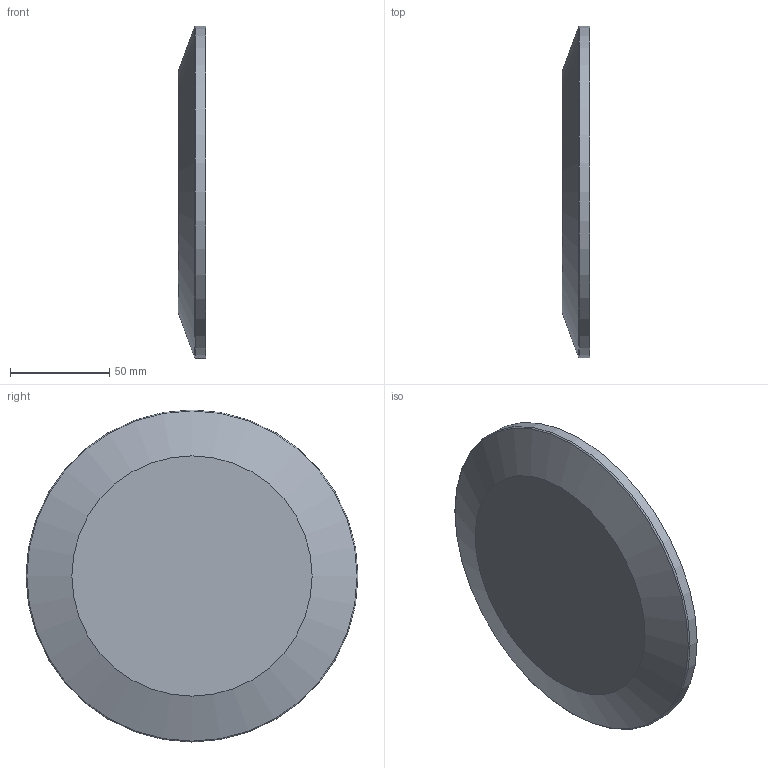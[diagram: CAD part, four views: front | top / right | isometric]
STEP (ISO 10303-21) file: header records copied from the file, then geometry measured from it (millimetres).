
FILE_DESCRIPTION(/* description */ (''),/* implementation_level */ '2;1');
FILE_NAME(/* name */ '12766-Ferrule size-166.stp',/* time_stamp */ '2024-12-16T08:27:25+01:00',/* author */ ('roger.thijssen'),/* organization */ (''),/* preprocessor_version */ 'ST-DEVELOPER v20',/* originating_system */ 'Autodesk Inventor 2025',/* authorisation */ '');
FILE_SCHEMA (('AUTOMOTIVE_DESIGN { 1 0 10303 214 3 1 1 }'));
Length unit declared in the file: millimetre
Products named in the file (1): 12766-Ferrule size-166
Bounding box: 14 x 167 x 167 mm (x, y, z)
Volume: 258733.3 mm3; surface area: 48078.1 mm2
Topology: 1 solids, 1 shells, 11 faces, 21 edges, 13 vertices
Faces by surface type: torus 4, cone 3, plane 3, cylinder 1
Full cylindrical faces by diameter (mm): 167 x1
Entity records: 351 total; most frequent: DIRECTION 62, CARTESIAN_POINT 46, ORIENTED_EDGE 42, AXIS2_PLACEMENT_3D 29, EDGE_CURVE 21, CIRCLE 17, VERTEX_POINT 13, EDGE_LOOP 12
